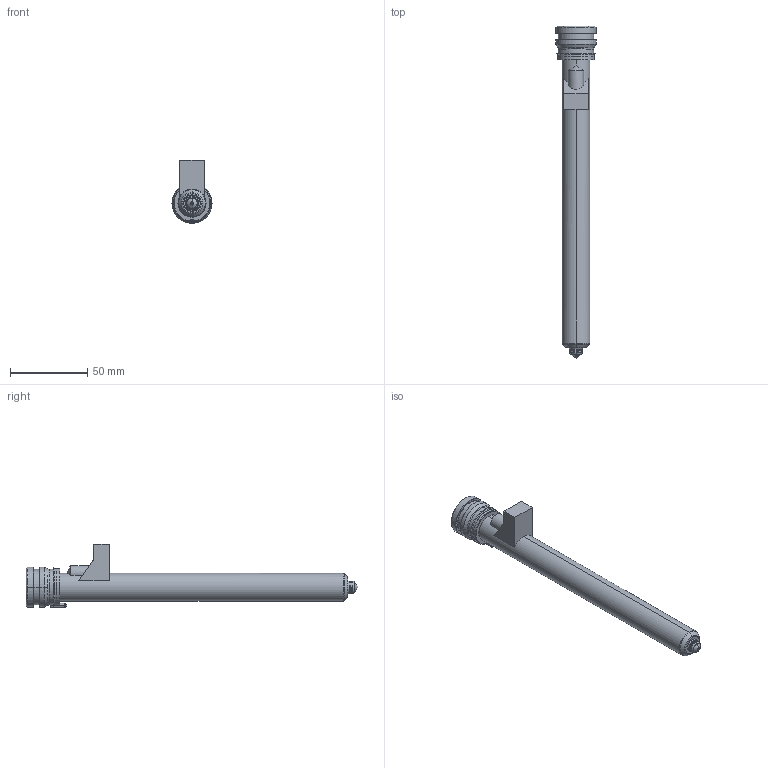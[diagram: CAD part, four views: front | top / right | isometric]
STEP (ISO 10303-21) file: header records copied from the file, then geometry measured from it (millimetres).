
FILE_DESCRIPTION((''),'2;1');
FILE_NAME('MPN-08-24-TX8-196-M','2026-02-05T13:27:03',('UPTIO'),('Thermoplay S.p.A.'),'CREO PARAMETRIC BY PTC INC, 2023494','CREO PARAMETRIC BY PTC INC, 2023494','');
FILE_SCHEMA(('CONFIG_CONTROL_DESIGN','SHAPE_APPEARANCE_LAYERS_GROUPS'));
Length unit declared in the file: millimetre
Products named in the file (1): MPN-08-24-TX8-196-M
Bounding box: 26 x 215.5 x 41.5 mm (x, y, z)
Volume: 39871 mm3; surface area: 53595 mm2
Topology: 2 solids, 3 shells, 532 faces, 1392 edges, 855 vertices
Faces by surface type: cylinder 174, plane 144, bspline 77, torus 62, cone 58, sphere 11, extrusion 6
Entity records: 28030 total; most frequent: CARTESIAN_POINT 12406, ORIENTED_EDGE 2762, DIRECTION 2491, EDGE_CURVE 1381, AXIS2_PLACEMENT_3D 974, VERTEX_POINT 855, EDGE_LOOP 562, VECTOR 543
